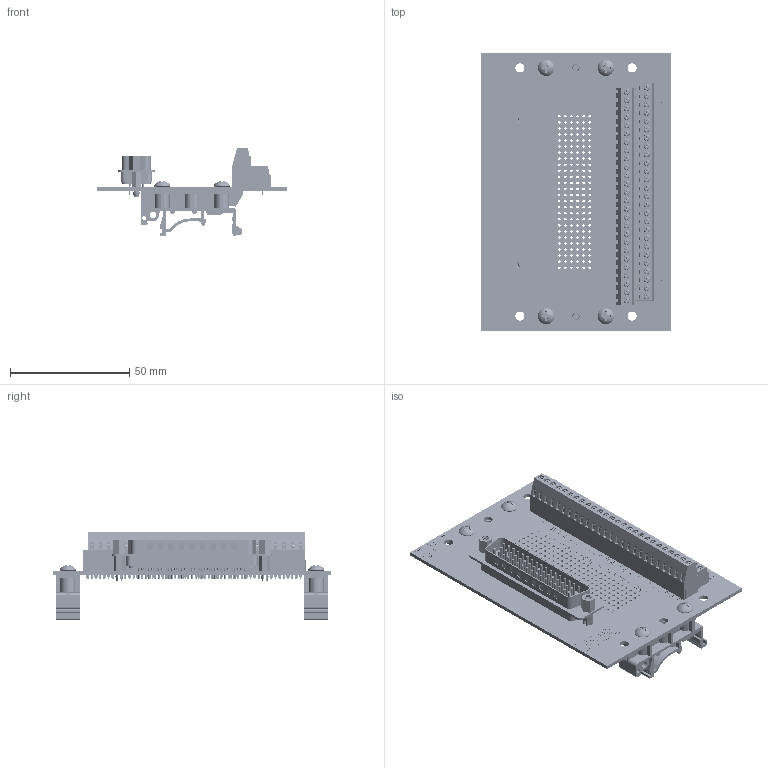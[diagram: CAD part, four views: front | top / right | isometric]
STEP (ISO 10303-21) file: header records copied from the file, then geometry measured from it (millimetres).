
FILE_DESCRIPTION (( 'STEP AP214' ), '1' );
FILE_NAME ('brkdd50m-s-din.step', '2017-07-10T17:58:48', ( '' ), ( '' ), 'SwSTEP 2.0', 'SolidWorks 2017', '' );
FILE_SCHEMA (( 'AUTOMOTIVE_DESIGN' ));
Length unit declared in the file: millimetre
Products named in the file (7): term4; term6; dinm01; db50m-st; SCSMPP-6-0.375-BULK_90184A127; BRKDD50M; brkdd50m-s-din
Assembly tree (17 placements, depth 2):
  brkdd50m-s-din
    BRKDD50M
    db50m-st
    dinm01  x2
    SCSMPP-6-0.375-BULK_90184A127  x4
    term4
    term6  x8
Bounding box: 80.01 x 116.84 x 36.78 mm (x, y, z)
Volume: 31091.2 mm3; surface area: 78016 mm2
Topology: 172 solids, 281 shells, 19530 faces, 50945 edges, 32660 vertices
Faces by surface type: plane 11005, cylinder 4951, bspline 2360, torus 684, cone 522, sphere 8
Entity records: 457330 total; most frequent: CARTESIAN_POINT 123294, ORIENTED_EDGE 58332, DIRECTION 48015, EDGE_CURVE 29168, VECTOR 20809, LINE 20809, VERTEX_POINT 19151, AXIS2_PLACEMENT_3D 13603
